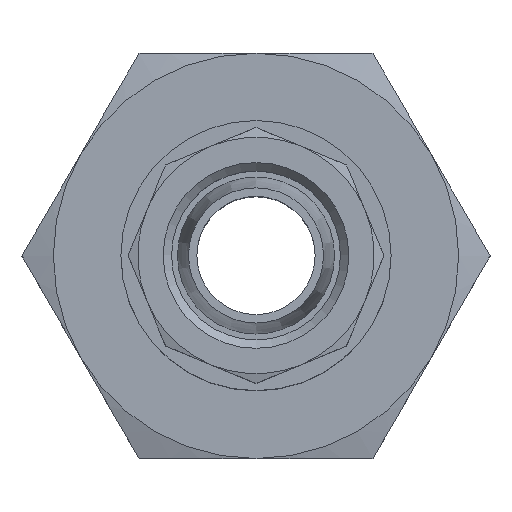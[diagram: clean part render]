
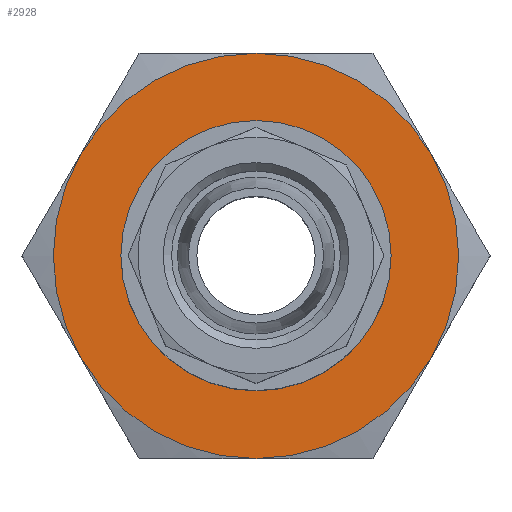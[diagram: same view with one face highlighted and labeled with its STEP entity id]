
A CAD part, top view. The second image highlights one B-rep face of the part: STEP entity #2928.
In plain terms, the highlighted planar face has unit normal (0, 0, 1) as drawn and (0, 1, 0) by its records, which use the part's own axes.
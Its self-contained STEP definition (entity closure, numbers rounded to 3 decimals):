
#1277=PLANE('',#2755);
#1400=ORIENTED_EDGE('',*,*,#1751,.F.);
#1401=ORIENTED_EDGE('',*,*,#1752,.F.);
#1402=ORIENTED_EDGE('',*,*,#1753,.F.);
#1403=ORIENTED_EDGE('',*,*,#1754,.F.);
#1404=ORIENTED_EDGE('',*,*,#1755,.F.);
#1405=ORIENTED_EDGE('',*,*,#1756,.F.);
#1406=ORIENTED_EDGE('',*,*,#1750,.T.);
#1610=CIRCLE('',#2754,6.25);
#1611=CIRCLE('',#2756,12.);
#1612=CIRCLE('',#2757,12.);
#1613=CIRCLE('',#2758,12.);
#1614=CIRCLE('',#2759,12.);
#1615=CIRCLE('',#2760,12.);
#1616=CIRCLE('',#2761,12.);
#1666=VERTEX_POINT('',#2506);
#1667=VERTEX_POINT('',#2509);
#1668=VERTEX_POINT('',#2510);
#1669=VERTEX_POINT('',#2512);
#1670=VERTEX_POINT('',#2514);
#1671=VERTEX_POINT('',#2516);
#1672=VERTEX_POINT('',#2518);
#1750=EDGE_CURVE('',#1666,#1666,#1610,.T.);
#1751=EDGE_CURVE('',#1667,#1668,#1611,.T.);
#1752=EDGE_CURVE('',#1669,#1667,#1612,.T.);
#1753=EDGE_CURVE('',#1670,#1669,#1613,.T.);
#1754=EDGE_CURVE('',#1671,#1670,#1614,.T.);
#1755=EDGE_CURVE('',#1672,#1671,#1615,.T.);
#1756=EDGE_CURVE('',#1668,#1672,#1616,.T.);
#1882=EDGE_LOOP('',(#1400,#1401,#1402,#1403,#1404,#1405));
#1883=EDGE_LOOP('',(#1406));
#1990=FACE_BOUND('',#1882,.T.);
#1991=FACE_BOUND('',#1883,.T.);
#2163=DIRECTION('',(0.,-1.,0.));
#2164=DIRECTION('',(0.,0.,6.25));
#2165=DIRECTION('',(0.,1.,0.));
#2166=DIRECTION('',(1.,0.,0.));
#2167=DIRECTION('',(0.,-1.,0.));
#2168=DIRECTION('',(0.,0.,12.));
#2169=DIRECTION('',(0.,-1.,0.));
#2170=DIRECTION('',(0.,0.,12.));
#2171=DIRECTION('',(0.,-1.,0.));
#2172=DIRECTION('',(0.,0.,12.));
#2173=DIRECTION('',(0.,-1.,0.));
#2174=DIRECTION('',(0.,0.,12.));
#2175=DIRECTION('',(0.,-1.,0.));
#2176=DIRECTION('',(0.,0.,12.));
#2177=DIRECTION('',(0.,-1.,0.));
#2178=DIRECTION('',(0.,0.,12.));
#2506=CARTESIAN_POINT('',(13.879,28.955,6.25));
#2507=CARTESIAN_POINT('',(13.879,28.955,0.));
#2508=CARTESIAN_POINT('',(25.879,28.955,0.));
#2509=CARTESIAN_POINT('',(24.271,28.955,6.));
#2510=CARTESIAN_POINT('',(13.879,28.955,12.));
#2511=CARTESIAN_POINT('',(13.879,28.955,0.));
#2512=CARTESIAN_POINT('',(24.271,28.955,-6.));
#2513=CARTESIAN_POINT('',(13.879,28.955,0.));
#2514=CARTESIAN_POINT('',(13.879,28.955,-12.));
#2515=CARTESIAN_POINT('',(13.879,28.955,0.));
#2516=CARTESIAN_POINT('',(3.486,28.955,-6.));
#2517=CARTESIAN_POINT('',(13.879,28.955,0.));
#2518=CARTESIAN_POINT('',(3.486,28.955,6.));
#2519=CARTESIAN_POINT('',(13.879,28.955,0.));
#2520=CARTESIAN_POINT('',(13.879,28.955,0.));
#2754=AXIS2_PLACEMENT_3D('',#2507,#2163,#2164);
#2755=AXIS2_PLACEMENT_3D('',#2508,#2165,#2166);
#2756=AXIS2_PLACEMENT_3D('',#2511,#2167,#2168);
#2757=AXIS2_PLACEMENT_3D('',#2513,#2169,#2170);
#2758=AXIS2_PLACEMENT_3D('',#2515,#2171,#2172);
#2759=AXIS2_PLACEMENT_3D('',#2517,#2173,#2174);
#2760=AXIS2_PLACEMENT_3D('',#2519,#2175,#2176);
#2761=AXIS2_PLACEMENT_3D('',#2520,#2177,#2178);
#2928=ADVANCED_FACE('',(#1990,#1991),#1277,.T.);
